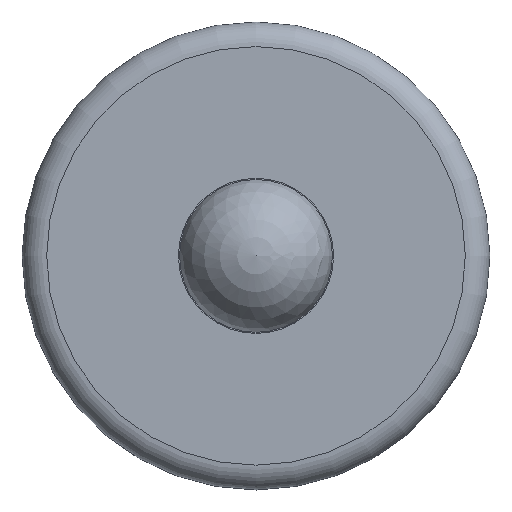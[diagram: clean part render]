
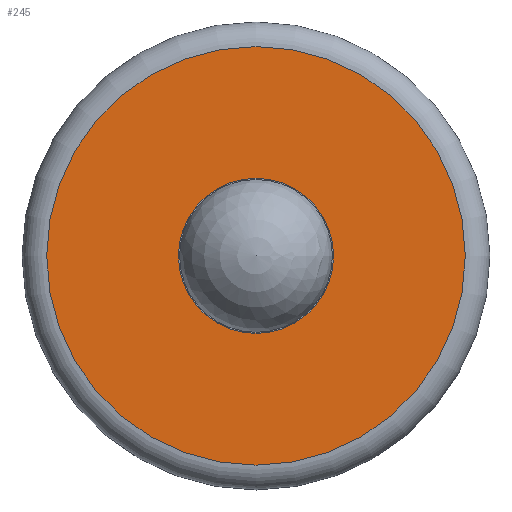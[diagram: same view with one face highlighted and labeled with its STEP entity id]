
A CAD part, top view. The second image highlights one B-rep face of the part: STEP entity #245.
In plain terms, the highlighted planar face has unit normal (0, 0, 1).
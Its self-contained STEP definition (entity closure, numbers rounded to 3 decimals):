
#36=PLANE('',#280);
#54=FACE_BOUND('',#124,.T.);
#73=CIRCLE('',#279,17.);
#74=CIRCLE('',#281,6.3);
#93=FACE_OUTER_BOUND('',#123,.T.);
#123=EDGE_LOOP('',(#208));
#124=EDGE_LOOP('',(#209));
#157=VERTEX_POINT('',#465);
#158=VERTEX_POINT('',#468);
#178=EDGE_CURVE('',#157,#157,#73,.T.);
#179=EDGE_CURVE('',#158,#158,#74,.T.);
#208=ORIENTED_EDGE('',*,*,#178,.T.);
#209=ORIENTED_EDGE('',*,*,#179,.F.);
#245=ADVANCED_FACE('',(#93,#54),#36,.T.);
#279=AXIS2_PLACEMENT_3D('',#466,#345,#346);
#280=AXIS2_PLACEMENT_3D('',#467,#347,#348);
#281=AXIS2_PLACEMENT_3D('',#469,#349,#350);
#345=DIRECTION('center_axis',(0.,0.,1.));
#346=DIRECTION('ref_axis',(0.,-1.,0.));
#347=DIRECTION('center_axis',(0.,0.,1.));
#348=DIRECTION('ref_axis',(1.,0.,0.));
#349=DIRECTION('center_axis',(0.,0.,1.));
#350=DIRECTION('ref_axis',(0.,-1.,0.));
#465=CARTESIAN_POINT('',(0.,-17.,11.));
#466=CARTESIAN_POINT('Origin',(0.,0.,11.));
#467=CARTESIAN_POINT('Origin',(0.,-11.65,11.));
#468=CARTESIAN_POINT('',(0.,-6.3,11.));
#469=CARTESIAN_POINT('Origin',(0.,0.,11.));
